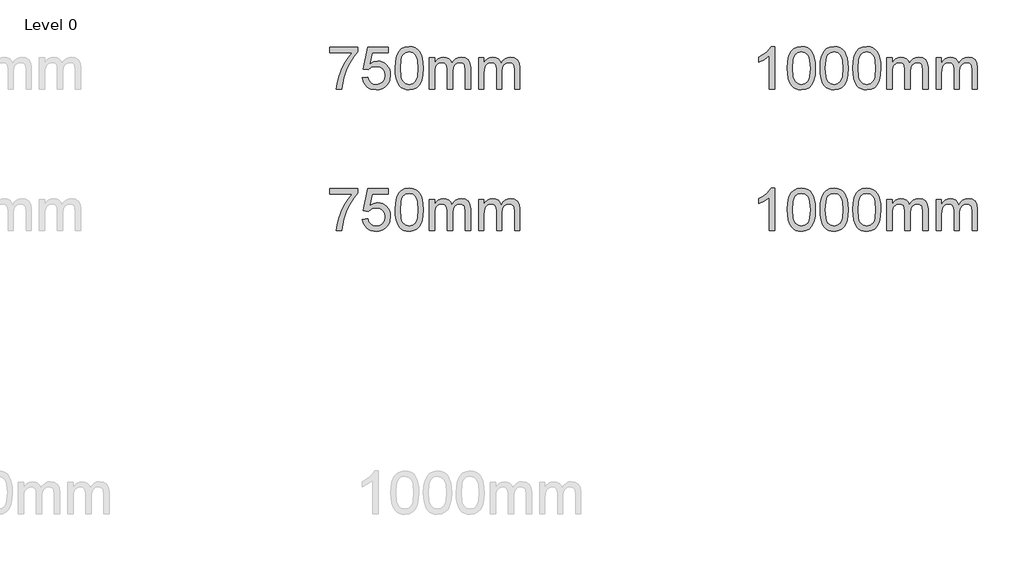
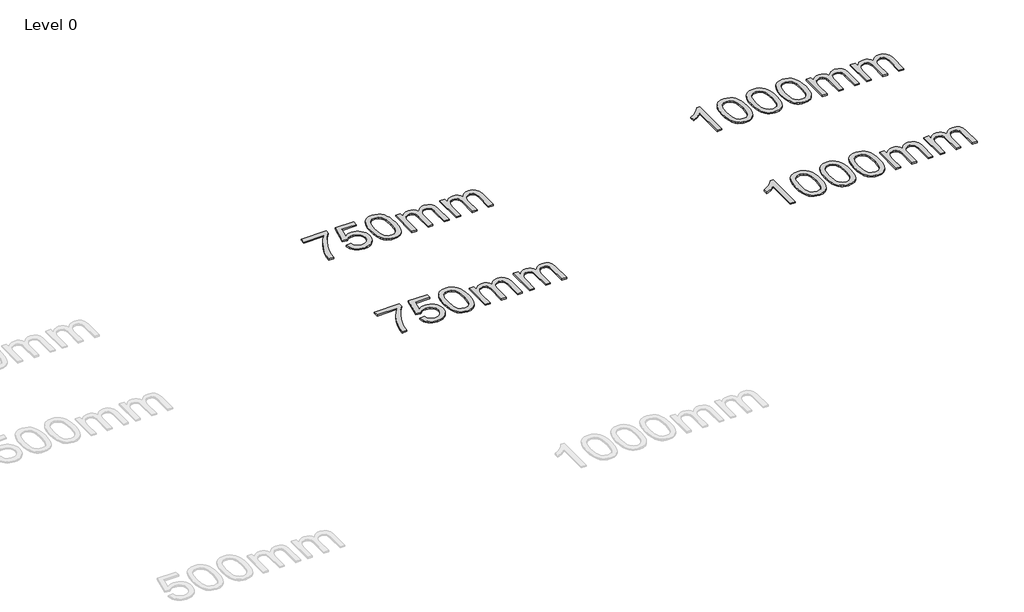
# One storey, part 25 of 25: 4 proxies.
"""IFC4 building model written with IfcOpenShell, lengths in millimetres."""

from ifc_helpers import new_model, si_unit, origin, origin_with_axes, place, context, project, spatial, polyline, outline, extrude, element, save

model = new_model("IFC4")

# Units and contexts
model_context = context("Model", 3, world=origin())
ifc_project = project(units=[si_unit("LENGTHUNIT", "METRE", prefix="MILLI")], contexts=[model_context])

# Site, building, storey
site = spatial("IfcSite", under=ifc_project)
building = spatial("IfcBuilding", under=site)
storey = spatial("IfcBuildingStorey", under=building, Name="Level 0", Elevation=0.0)

# Proxies
placement = place(None, origin())
element("IfcBuildingElementProxy", 1, Name="300mm Arial", ObjectType="300mm Arial", at=placement, inside=storey, context=model_context, shape_type="SweptSolid", body=[
    extrude(outline(polyline([(3508.6610417, 2058.0121264), (3508.6610417, 2095.6832427), (3706.4344023, 2095.6832427), (3706.4344023, 2065.2226135), (3678.2454444, 2029.547257), (3650.332398, 1984.17821), (3625.7118955, 1933.2541448), (3607.4005692, 1880.9137339), (3598.4242485, 1841.7526956), (3593.4210534, 1799.0232018), (3555.7499371, 1799.0232018), (3559.8242301, 1837.8531464), (3570.7227343, 1884.0039427), (3588.1511438, 1932.923051), (3611.8151531, 1980.0579316), (3639.443091, 2022.6678637), (3668.763286, 2058.0121264), (3508.6610417, 2058.0121264)])), origin_with_axes(), (0.0, 0.0, 1.0), 10.0),
    extrude(outline(polyline([(3739.396629, 1879.074324), (3777.0677453, 1883.7832135), (3783.9839269, 1861.1676679), (3796.0504563, 1844.971663), (3813.2121514, 1835.2319872), (3835.4138298, 1831.9854286), (3862.4163682, 1836.5011801), (3882.649878, 1850.0484346), (3895.2866245, 1871.0636935), (3899.4988733, 1897.9834585), (3895.5533389, 1923.330528), (3883.7167358, 1942.7179091), (3863.8970933, 1955.0235619), (3836.002441, 1959.1254461), (3817.7279029, 1957.4883712), (3802.9298496, 1952.5771466), (3781.7766349, 1935.5809984), (3744.1055186, 1940.289888), (3777.0677453, 2095.6832427), (3923.043321, 2095.6832427), (3923.043321, 2058.0121264), (3807.5283745, 2058.0121264), (3791.4151432, 1975.0179483), (3818.3257111, 1991.3519089), (3846.523866, 1996.7965624), (3864.8696813, 1995.1089038), (3881.7209759, 1990.0459278), (3897.07775, 1981.6076346), (3910.9400034, 1969.794024), (3922.4156224, 1955.3270645), (3930.6124931, 1938.9287246), (3935.5306155, 1920.5990042), (3937.1699896, 1900.3379033), (3931.2654836, 1862.666787), (3923.8848511, 1845.8729739), (3913.5519656, 1830.4403242), (3897.8985867, 1814.635194), (3879.6332456, 1803.3458153), (3858.7559424, 1796.572188), (3835.266677, 1794.3143123), (3798.2669453, 1800.1176508), (3782.5882745, 1807.3718238), (3768.7904005, 1817.5276662), (3757.3101829, 1830.07934), (3748.5844819, 1844.5210076), (3739.396629, 1879.074324)])), origin_with_axes(), (0.0, 0.0, 1.0), 10.0),
    extrude(outline(polyline([(3970.1322164, 1947.2796459), (3972.9005284, 1995.5181725), (3981.2054645, 2033.9894321), (3994.9642511, 2063.282036), (4014.0941148, 2083.9845953), (4038.7330115, 2096.290248), (4069.0188967, 2100.3921323), (4092.2322506, 2097.9641111), (4113.0175833, 2090.6800476), (4130.4000076, 2078.8250503), (4143.4046361, 2062.6842278), (4153.2270854, 2042.3955357), (4161.0629719, 2018.0969299), (4166.1949257, 1987.2408276), (4167.905577, 1947.2796459), (4165.1648562, 1899.3170308), (4156.9426936, 1860.9377416), (4143.2666804, 1831.6175466), (4124.1644078, 1810.8322139), (4099.4703289, 1798.4437877), (4069.0188967, 1794.3143123), (4048.2703522, 1796.107737), (4029.8762524, 1801.4880112), (4013.8365974, 1810.4551348), (4000.1513872, 1823.0091079), (3987.018, 1845.7028285), (3977.6370091, 1873.9791583), (3972.0084146, 1907.8380975), (3970.1322164, 1947.2796459)]), holes=[polyline([(4007.8033327, 1947.3532223), (4012.2179167, 1888.0966299), (4017.7361466, 1867.8286312), (4025.4616685, 1853.8008309), (4045.1801434, 1837.4392792), (4069.0188967, 1831.9854286), (4092.85765, 1837.4576733), (4112.576125, 1853.8744073), (4120.3016468, 1867.9252003), (4125.8198768, 1888.1886004), (4130.2344607, 1947.3532223), (4125.9670296, 2005.2762424), (4120.6327406, 2025.4775625), (4113.1647361, 2039.8387559), (4093.4830494, 2057.0004509), (4068.5774383, 2062.721016), (4044.9962024, 2057.6810326), (4026.0502797, 2042.5610826), (4018.0672404, 2026.9260978), (4012.3650695, 2005.8464595), (4007.8033327, 1947.3532223)])]), origin_with_axes(), (0.0, 0.0, 1.0), 10.0),
    extrude(outline(polyline([(4210.2855829, 1799.0232018), (4210.2855829, 2020.3410101), (4247.9566992, 2020.3410101), (4247.9566992, 1983.9206926), (4259.2874646, 2000.6501263), (4273.8555916, 2013.7559224), (4291.1644395, 2022.2264053), (4310.7173676, 2025.0498997), (4331.6682472, 2022.171223), (4348.4620603, 2013.5351932), (4361.0068363, 1999.7120272), (4369.2106048, 1981.2719422), (4382.9418003, 2000.4247986), (4398.6043762, 2014.1054103), (4416.1983326, 2022.3137773), (4435.7236695, 2025.0498997), (4464.0413861, 2020.49736), (4484.9830687, 2006.8397409), (4497.9233178, 1983.7091605), (4502.2367342, 1950.7377366), (4502.2367342, 1799.0232018), (4464.5656179, 1799.0232018), (4464.5656179, 1934.5509288), (4461.070739, 1966.0048394), (4456.1595143, 1974.6776575), (4448.4155983, 1981.4926714), (4438.4551933, 1985.9072554), (4426.8945016, 1987.3787834), (4406.4862479, 1983.6079929), (4389.8487847, 1972.2956216), (4378.7847337, 1952.6691171), (4375.0967167, 1923.9559274), (4375.0967167, 1799.0232018), (4337.4256004, 1799.0232018), (4337.4256004, 1938.7447836), (4335.2458996, 1960.0451511), (4328.7067971, 1975.2386775), (4317.2012877, 1984.3437569), (4300.1223661, 1987.3787834), (4285.6094214, 1985.3554324), (4272.2369109, 1979.2853795), (4261.200451, 1969.3157774), (4253.6956583, 1955.593779), (4249.391439, 1936.5558857), (4247.9566992, 1910.6385992), (4247.9566992, 1799.0232018), (4210.2855829, 1799.0232018)])), origin_with_axes(), (0.0, 0.0, 1.0), 10.0),
    extrude(outline(polyline([(4558.7434087, 1799.0232018), (4558.7434087, 2020.3410101), (4596.414525, 2020.3410101), (4596.414525, 1983.9206926), (4607.7452905, 2000.6501263), (4622.3134175, 2013.7559224), (4639.6222653, 2022.2264053), (4659.1751934, 2025.0498997), (4680.126073, 2022.171223), (4696.9198861, 2013.5351932), (4709.4646621, 1999.7120272), (4717.6684306, 1981.2719422), (4731.3996261, 2000.4247986), (4747.062202, 2014.1054103), (4764.6561585, 2022.3137773), (4784.1814953, 2025.0498997), (4812.4992119, 2020.49736), (4833.4408945, 2006.8397409), (4846.3811437, 1983.7091605), (4850.6945601, 1950.7377366), (4850.6945601, 1799.0232018), (4813.0234438, 1799.0232018), (4813.0234438, 1934.5509288), (4809.5285648, 1966.0048394), (4804.6173402, 1974.6776575), (4796.8734242, 1981.4926714), (4786.9130192, 1985.9072554), (4775.3523275, 1987.3787834), (4754.9440738, 1983.6079929), (4738.3066105, 1972.2956216), (4727.2425595, 1952.6691171), (4723.5545425, 1923.9559274), (4723.5545425, 1799.0232018), (4685.8834262, 1799.0232018), (4685.8834262, 1938.7447836), (4683.7037254, 1960.0451511), (4677.1646229, 1975.2386775), (4665.6591135, 1984.3437569), (4648.5801919, 1987.3787834), (4634.0672472, 1985.3554324), (4620.6947367, 1979.2853795), (4609.6582768, 1969.3157774), (4602.1534841, 1955.593779), (4597.8492648, 1936.5558857), (4596.414525, 1910.6385992), (4596.414525, 1799.0232018), (4558.7434087, 1799.0232018)])), origin_with_axes(), (0.0, 0.0, 1.0), 10.0),
])
element("IfcBuildingElementProxy", 2, Name="300mm Arial", ObjectType="300mm Arial", at=placement, inside=storey, context=model_context, shape_type="SweptSolid", body=[
    extrude(outline(polyline([(6649.9277278, 1799.0232018), (6612.2566115, 1799.0232018), (6612.2566115, 2033.8790675), (6576.572058, 2008.4584217), (6536.9143789, 1989.4389225), (6536.9143789, 2025.0498997), (6566.5012884, 2041.1447369), (6592.1334664, 2060.2929948), (6612.339385, 2080.6552632), (6625.6475161, 2100.3921323), (6649.9277278, 2100.3921323), (6649.9277278, 1799.0232018)])), origin_with_axes(), (0.0, 0.0, 1.0), 10.0),
    extrude(outline(polyline([(6739.396629, 1947.2796459), (6742.1649411, 1995.5181725), (6750.4698771, 2033.9894321), (6764.2286637, 2063.282036), (6783.3585275, 2083.9845953), (6807.9974241, 2096.290248), (6838.2833093, 2100.3921323), (6861.4966632, 2097.9641111), (6882.281996, 2090.6800476), (6899.6644202, 2078.8250503), (6912.6690488, 2062.6842278), (6922.491498, 2042.3955357), (6930.3273845, 2018.0969299), (6935.4593384, 1987.2408276), (6937.1699896, 1947.2796459), (6934.4292688, 1899.3170308), (6926.2071062, 1860.9377416), (6912.531093, 1831.6175466), (6893.4288204, 1810.8322139), (6868.7347415, 1798.4437877), (6838.2833093, 1794.3143123), (6817.5347648, 1796.107737), (6799.1406651, 1801.4880112), (6783.1010101, 1810.4551348), (6769.4157998, 1823.0091079), (6756.2824126, 1845.7028285), (6746.9014217, 1873.9791583), (6741.2728272, 1907.8380975), (6739.396629, 1947.2796459)]), holes=[polyline([(6777.0677453, 1947.3532223), (6781.4823293, 1888.0966299), (6787.0005592, 1867.8286312), (6794.7260811, 1853.8008309), (6814.4445561, 1837.4392792), (6838.2833093, 1831.9854286), (6862.1220626, 1837.4576733), (6881.8405376, 1853.8744073), (6889.5660595, 1867.9252003), (6895.0842894, 1888.1886004), (6899.4988733, 1947.3532223), (6895.2314422, 2005.2762424), (6889.8971533, 2025.4775625), (6882.4291488, 2039.8387559), (6862.747462, 2057.0004509), (6837.841851, 2062.721016), (6814.2606151, 2057.6810326), (6795.3146923, 2042.5610826), (6787.331653, 2026.9260978), (6781.6294821, 2005.8464595), (6777.0677453, 1947.3532223)])]), origin_with_axes(), (0.0, 0.0, 1.0), 10.0),
    extrude(outline(polyline([(6970.1322164, 1947.2796459), (6972.9005284, 1995.5181725), (6981.2054645, 2033.9894321), (6994.9642511, 2063.282036), (7014.0941148, 2083.9845953), (7038.7330115, 2096.290248), (7069.0188967, 2100.3921323), (7092.2322506, 2097.9641111), (7113.0175833, 2090.6800476), (7130.4000076, 2078.8250503), (7143.4046361, 2062.6842278), (7153.2270854, 2042.3955357), (7161.0629719, 2018.0969299), (7166.1949257, 1987.2408276), (7167.905577, 1947.2796459), (7165.1648562, 1899.3170308), (7156.9426936, 1860.9377416), (7143.2666804, 1831.6175466), (7124.1644078, 1810.8322139), (7099.4703289, 1798.4437877), (7069.0188967, 1794.3143123), (7048.2703522, 1796.107737), (7029.8762524, 1801.4880112), (7013.8365974, 1810.4551348), (7000.1513872, 1823.0091079), (6987.018, 1845.7028285), (6977.6370091, 1873.9791583), (6972.0084146, 1907.8380975), (6970.1322164, 1947.2796459)]), holes=[polyline([(7007.8033327, 1947.3532223), (7012.2179167, 1888.0966299), (7017.7361466, 1867.8286312), (7025.4616685, 1853.8008309), (7045.1801434, 1837.4392792), (7069.0188967, 1831.9854286), (7092.85765, 1837.4576733), (7112.576125, 1853.8744073), (7120.3016468, 1867.9252003), (7125.8198768, 1888.1886004), (7130.2344607, 1947.3532223), (7125.9670296, 2005.2762424), (7120.6327406, 2025.4775625), (7113.1647361, 2039.8387559), (7093.4830494, 2057.0004509), (7068.5774383, 2062.721016), (7044.9962024, 2057.6810326), (7026.0502797, 2042.5610826), (7018.0672404, 2026.9260978), (7012.3650695, 2005.8464595), (7007.8033327, 1947.3532223)])]), origin_with_axes(), (0.0, 0.0, 1.0), 10.0),
    extrude(outline(polyline([(7200.8678038, 1947.2796459), (7203.6361158, 1995.5181725), (7211.9410518, 2033.9894321), (7225.6998385, 2063.282036), (7244.8297022, 2083.9845953), (7269.4685988, 2096.290248), (7299.7544841, 2100.3921323), (7322.967838, 2097.9641111), (7343.7531707, 2090.6800476), (7361.135595, 2078.8250503), (7374.1402235, 2062.6842278), (7383.9626728, 2042.3955357), (7391.7985593, 2018.0969299), (7396.9305131, 1987.2408276), (7398.6411644, 1947.2796459), (7395.9004435, 1899.3170308), (7387.6782809, 1860.9377416), (7374.0022678, 1831.6175466), (7354.8999952, 1810.8322139), (7330.2059162, 1798.4437877), (7299.7544841, 1794.3143123), (7279.0059396, 1796.107737), (7260.6118398, 1801.4880112), (7244.5721848, 1810.4551348), (7230.8869746, 1823.0091079), (7217.7535874, 1845.7028285), (7208.3725965, 1873.9791583), (7202.744002, 1907.8380975), (7200.8678038, 1947.2796459)]), holes=[polyline([(7238.5389201, 1947.3532223), (7242.953504, 1888.0966299), (7248.471734, 1867.8286312), (7256.1972559, 1853.8008309), (7275.9157308, 1837.4392792), (7299.7544841, 1831.9854286), (7323.5932374, 1837.4576733), (7343.3117123, 1853.8744073), (7351.0372342, 1867.9252003), (7356.5554642, 1888.1886004), (7360.9700481, 1947.3532223), (7356.7026169, 2005.2762424), (7351.368328, 2025.4775625), (7343.9003235, 2039.8387559), (7324.2186368, 2057.0004509), (7299.3130257, 2062.721016), (7275.7317898, 2057.6810326), (7256.7858671, 2042.5610826), (7248.8028278, 2026.9260978), (7243.1006568, 2005.8464595), (7238.5389201, 1947.3532223)])]), origin_with_axes(), (0.0, 0.0, 1.0), 10.0),
    extrude(outline(polyline([(7441.0211702, 1799.0232018), (7441.0211702, 2020.3410101), (7478.6922866, 2020.3410101), (7478.6922866, 1983.9206926), (7490.023052, 2000.6501263), (7504.591179, 2013.7559224), (7521.9000269, 2022.2264053), (7541.4529549, 2025.0498997), (7562.4038346, 2022.171223), (7579.1976476, 2013.5351932), (7591.7424237, 1999.7120272), (7599.9461922, 1981.2719422), (7613.6773876, 2000.4247986), (7629.3399636, 2014.1054103), (7646.93392, 2022.3137773), (7666.4592569, 2025.0498997), (7694.7769735, 2020.49736), (7715.718656, 2006.8397409), (7728.6589052, 1983.7091605), (7732.9723216, 1950.7377366), (7732.9723216, 1799.0232018), (7695.3012053, 1799.0232018), (7695.3012053, 1934.5509288), (7691.8063264, 1966.0048394), (7686.8951017, 1974.6776575), (7679.1511857, 1981.4926714), (7669.1907807, 1985.9072554), (7657.630089, 1987.3787834), (7637.2218353, 1983.6079929), (7620.5843721, 1972.2956216), (7609.5203211, 1952.6691171), (7605.8323041, 1923.9559274), (7605.8323041, 1799.0232018), (7568.1611878, 1799.0232018), (7568.1611878, 1938.7447836), (7565.981487, 1960.0451511), (7559.4423845, 1975.2386775), (7547.9368751, 1984.3437569), (7530.8579535, 1987.3787834), (7516.3450088, 1985.3554324), (7502.9724982, 1979.2853795), (7491.9360384, 1969.3157774), (7484.4312457, 1955.593779), (7480.1270263, 1936.5558857), (7478.6922866, 1910.6385992), (7478.6922866, 1799.0232018), (7441.0211702, 1799.0232018)])), origin_with_axes(), (0.0, 0.0, 1.0), 10.0),
    extrude(outline(polyline([(7789.4789961, 1799.0232018), (7789.4789961, 2020.3410101), (7827.1501124, 2020.3410101), (7827.1501124, 1983.9206926), (7838.4808778, 2000.6501263), (7853.0490048, 2013.7559224), (7870.3578527, 2022.2264053), (7889.9107808, 2025.0498997), (7910.8616604, 2022.171223), (7927.6554735, 2013.5351932), (7940.2002495, 1999.7120272), (7948.404018, 1981.2719422), (7962.1352135, 2000.4247986), (7977.7977894, 2014.1054103), (7995.3917458, 2022.3137773), (8014.9170827, 2025.0498997), (8043.2347993, 2020.49736), (8064.1764819, 2006.8397409), (8077.1167311, 1983.7091605), (8081.4301474, 1950.7377366), (8081.4301474, 1799.0232018), (8043.7590311, 1799.0232018), (8043.7590311, 1934.5509288), (8040.2641522, 1966.0048394), (8035.3529276, 1974.6776575), (8027.6090116, 1981.4926714), (8017.6486065, 1985.9072554), (8006.0879148, 1987.3787834), (7985.6796612, 1983.6079929), (7969.0421979, 1972.2956216), (7957.9781469, 1952.6691171), (7954.2901299, 1923.9559274), (7954.2901299, 1799.0232018), (7916.6190136, 1799.0232018), (7916.6190136, 1938.7447836), (7914.4393128, 1960.0451511), (7907.9002103, 1975.2386775), (7896.3947009, 1984.3437569), (7879.3157793, 1987.3787834), (7864.8028346, 1985.3554324), (7851.4303241, 1979.2853795), (7840.3938642, 1969.3157774), (7832.8890715, 1955.593779), (7828.5848522, 1936.5558857), (7827.1501124, 1910.6385992), (7827.1501124, 1799.0232018), (7789.4789961, 1799.0232018)])), origin_with_axes(), (0.0, 0.0, 1.0), 10.0),
])
element("IfcBuildingElementProxy", 3, Name="300mm Arial", ObjectType="300mm Arial", at=placement, inside=storey, context=model_context, shape_type="SweptSolid", body=[
    extrude(outline(polyline([(3508.6610417, 3058.0121264), (3508.6610417, 3095.6832427), (3706.4344023, 3095.6832427), (3706.4344023, 3065.2226135), (3678.2454444, 3029.547257), (3650.332398, 2984.17821), (3625.7118955, 2933.2541448), (3607.4005692, 2880.9137339), (3598.4242485, 2841.7526956), (3593.4210534, 2799.0232018), (3555.7499371, 2799.0232018), (3559.8242301, 2837.8531464), (3570.7227343, 2884.0039427), (3588.1511438, 2932.923051), (3611.8151531, 2980.0579316), (3639.443091, 3022.6678637), (3668.763286, 3058.0121264), (3508.6610417, 3058.0121264)])), origin_with_axes(), (0.0, 0.0, 1.0), 10.0),
    extrude(outline(polyline([(3739.396629, 2879.074324), (3777.0677453, 2883.7832135), (3783.9839269, 2861.1676679), (3796.0504563, 2844.971663), (3813.2121514, 2835.2319872), (3835.4138298, 2831.9854286), (3862.4163682, 2836.5011801), (3882.649878, 2850.0484346), (3895.2866245, 2871.0636935), (3899.4988733, 2897.9834585), (3895.5533389, 2923.330528), (3883.7167358, 2942.7179091), (3863.8970933, 2955.0235619), (3836.002441, 2959.1254461), (3817.7279029, 2957.4883712), (3802.9298496, 2952.5771466), (3781.7766349, 2935.5809984), (3744.1055186, 2940.289888), (3777.0677453, 3095.6832427), (3923.043321, 3095.6832427), (3923.043321, 3058.0121264), (3807.5283745, 3058.0121264), (3791.4151432, 2975.0179483), (3818.3257111, 2991.3519089), (3846.523866, 2996.7965624), (3864.8696813, 2995.1089038), (3881.7209759, 2990.0459278), (3897.07775, 2981.6076346), (3910.9400034, 2969.794024), (3922.4156224, 2955.3270645), (3930.6124931, 2938.9287246), (3935.5306155, 2920.5990042), (3937.1699896, 2900.3379033), (3931.2654836, 2862.666787), (3923.8848511, 2845.8729739), (3913.5519656, 2830.4403242), (3897.8985867, 2814.635194), (3879.6332456, 2803.3458153), (3858.7559424, 2796.572188), (3835.266677, 2794.3143123), (3798.2669453, 2800.1176508), (3782.5882745, 2807.3718238), (3768.7904005, 2817.5276662), (3757.3101829, 2830.07934), (3748.5844819, 2844.5210076), (3739.396629, 2879.074324)])), origin_with_axes(), (0.0, 0.0, 1.0), 10.0),
    extrude(outline(polyline([(3970.1322164, 2947.2796459), (3972.9005284, 2995.5181725), (3981.2054645, 3033.9894321), (3994.9642511, 3063.282036), (4014.0941148, 3083.9845953), (4038.7330115, 3096.290248), (4069.0188967, 3100.3921323), (4092.2322506, 3097.9641111), (4113.0175833, 3090.6800476), (4130.4000076, 3078.8250503), (4143.4046361, 3062.6842278), (4153.2270854, 3042.3955357), (4161.0629719, 3018.0969299), (4166.1949257, 2987.2408276), (4167.905577, 2947.2796459), (4165.1648562, 2899.3170308), (4156.9426936, 2860.9377416), (4143.2666804, 2831.6175466), (4124.1644078, 2810.8322139), (4099.4703289, 2798.4437877), (4069.0188967, 2794.3143123), (4048.2703522, 2796.107737), (4029.8762524, 2801.4880112), (4013.8365974, 2810.4551348), (4000.1513872, 2823.0091079), (3987.018, 2845.7028285), (3977.6370091, 2873.9791583), (3972.0084146, 2907.8380975), (3970.1322164, 2947.2796459)]), holes=[polyline([(4007.8033327, 2947.3532223), (4012.2179167, 2888.0966299), (4017.7361466, 2867.8286312), (4025.4616685, 2853.8008309), (4045.1801434, 2837.4392792), (4069.0188967, 2831.9854286), (4092.85765, 2837.4576733), (4112.576125, 2853.8744073), (4120.3016468, 2867.9252003), (4125.8198768, 2888.1886004), (4130.2344607, 2947.3532223), (4125.9670296, 3005.2762424), (4120.6327406, 3025.4775625), (4113.1647361, 3039.8387559), (4093.4830494, 3057.0004509), (4068.5774383, 3062.721016), (4044.9962024, 3057.6810326), (4026.0502797, 3042.5610826), (4018.0672404, 3026.9260978), (4012.3650695, 3005.8464595), (4007.8033327, 2947.3532223)])]), origin_with_axes(), (0.0, 0.0, 1.0), 10.0),
    extrude(outline(polyline([(4210.2855829, 2799.0232018), (4210.2855829, 3020.3410101), (4247.9566992, 3020.3410101), (4247.9566992, 2983.9206926), (4259.2874646, 3000.6501263), (4273.8555916, 3013.7559224), (4291.1644395, 3022.2264053), (4310.7173676, 3025.0498997), (4331.6682472, 3022.171223), (4348.4620603, 3013.5351932), (4361.0068363, 2999.7120272), (4369.2106048, 2981.2719422), (4382.9418003, 3000.4247986), (4398.6043762, 3014.1054103), (4416.1983326, 3022.3137773), (4435.7236695, 3025.0498997), (4464.0413861, 3020.49736), (4484.9830687, 3006.8397409), (4497.9233178, 2983.7091605), (4502.2367342, 2950.7377366), (4502.2367342, 2799.0232018), (4464.5656179, 2799.0232018), (4464.5656179, 2934.5509288), (4461.070739, 2966.0048394), (4456.1595143, 2974.6776575), (4448.4155983, 2981.4926714), (4438.4551933, 2985.9072554), (4426.8945016, 2987.3787834), (4406.4862479, 2983.6079929), (4389.8487847, 2972.2956216), (4378.7847337, 2952.6691171), (4375.0967167, 2923.9559274), (4375.0967167, 2799.0232018), (4337.4256004, 2799.0232018), (4337.4256004, 2938.7447836), (4335.2458996, 2960.0451511), (4328.7067971, 2975.2386775), (4317.2012877, 2984.3437569), (4300.1223661, 2987.3787834), (4285.6094214, 2985.3554324), (4272.2369109, 2979.2853795), (4261.200451, 2969.3157774), (4253.6956583, 2955.593779), (4249.391439, 2936.5558857), (4247.9566992, 2910.6385992), (4247.9566992, 2799.0232018), (4210.2855829, 2799.0232018)])), origin_with_axes(), (0.0, 0.0, 1.0), 10.0),
    extrude(outline(polyline([(4558.7434087, 2799.0232018), (4558.7434087, 3020.3410101), (4596.414525, 3020.3410101), (4596.414525, 2983.9206926), (4607.7452905, 3000.6501263), (4622.3134175, 3013.7559224), (4639.6222653, 3022.2264053), (4659.1751934, 3025.0498997), (4680.126073, 3022.171223), (4696.9198861, 3013.5351932), (4709.4646621, 2999.7120272), (4717.6684306, 2981.2719422), (4731.3996261, 3000.4247986), (4747.062202, 3014.1054103), (4764.6561585, 3022.3137773), (4784.1814953, 3025.0498997), (4812.4992119, 3020.49736), (4833.4408945, 3006.8397409), (4846.3811437, 2983.7091605), (4850.6945601, 2950.7377366), (4850.6945601, 2799.0232018), (4813.0234438, 2799.0232018), (4813.0234438, 2934.5509288), (4809.5285648, 2966.0048394), (4804.6173402, 2974.6776575), (4796.8734242, 2981.4926714), (4786.9130192, 2985.9072554), (4775.3523275, 2987.3787834), (4754.9440738, 2983.6079929), (4738.3066105, 2972.2956216), (4727.2425595, 2952.6691171), (4723.5545425, 2923.9559274), (4723.5545425, 2799.0232018), (4685.8834262, 2799.0232018), (4685.8834262, 2938.7447836), (4683.7037254, 2960.0451511), (4677.1646229, 2975.2386775), (4665.6591135, 2984.3437569), (4648.5801919, 2987.3787834), (4634.0672472, 2985.3554324), (4620.6947367, 2979.2853795), (4609.6582768, 2969.3157774), (4602.1534841, 2955.593779), (4597.8492648, 2936.5558857), (4596.414525, 2910.6385992), (4596.414525, 2799.0232018), (4558.7434087, 2799.0232018)])), origin_with_axes(), (0.0, 0.0, 1.0), 10.0),
])
element("IfcBuildingElementProxy", 4, Name="300mm Arial", ObjectType="300mm Arial", at=placement, inside=storey, context=model_context, shape_type="SweptSolid", body=[
    extrude(outline(polyline([(6649.9277278, 2799.0232018), (6612.2566115, 2799.0232018), (6612.2566115, 3033.8790675), (6576.572058, 3008.4584217), (6536.9143789, 2989.4389225), (6536.9143789, 3025.0498997), (6566.5012884, 3041.1447369), (6592.1334664, 3060.2929948), (6612.339385, 3080.6552632), (6625.6475161, 3100.3921323), (6649.9277278, 3100.3921323), (6649.9277278, 2799.0232018)])), origin_with_axes(), (0.0, 0.0, 1.0), 10.0),
    extrude(outline(polyline([(6739.396629, 2947.2796459), (6742.1649411, 2995.5181725), (6750.4698771, 3033.9894321), (6764.2286637, 3063.282036), (6783.3585275, 3083.9845953), (6807.9974241, 3096.290248), (6838.2833093, 3100.3921323), (6861.4966632, 3097.9641111), (6882.281996, 3090.6800476), (6899.6644202, 3078.8250503), (6912.6690488, 3062.6842278), (6922.491498, 3042.3955357), (6930.3273845, 3018.0969299), (6935.4593384, 2987.2408276), (6937.1699896, 2947.2796459), (6934.4292688, 2899.3170308), (6926.2071062, 2860.9377416), (6912.531093, 2831.6175466), (6893.4288204, 2810.8322139), (6868.7347415, 2798.4437877), (6838.2833093, 2794.3143123), (6817.5347648, 2796.107737), (6799.1406651, 2801.4880112), (6783.1010101, 2810.4551348), (6769.4157998, 2823.0091079), (6756.2824126, 2845.7028285), (6746.9014217, 2873.9791583), (6741.2728272, 2907.8380975), (6739.396629, 2947.2796459)]), holes=[polyline([(6777.0677453, 2947.3532223), (6781.4823293, 2888.0966299), (6787.0005592, 2867.8286312), (6794.7260811, 2853.8008309), (6814.4445561, 2837.4392792), (6838.2833093, 2831.9854286), (6862.1220626, 2837.4576733), (6881.8405376, 2853.8744073), (6889.5660595, 2867.9252003), (6895.0842894, 2888.1886004), (6899.4988733, 2947.3532223), (6895.2314422, 3005.2762424), (6889.8971533, 3025.4775625), (6882.4291488, 3039.8387559), (6862.747462, 3057.0004509), (6837.841851, 3062.721016), (6814.2606151, 3057.6810326), (6795.3146923, 3042.5610826), (6787.331653, 3026.9260978), (6781.6294821, 3005.8464595), (6777.0677453, 2947.3532223)])]), origin_with_axes(), (0.0, 0.0, 1.0), 10.0),
    extrude(outline(polyline([(6970.1322164, 2947.2796459), (6972.9005284, 2995.5181725), (6981.2054645, 3033.9894321), (6994.9642511, 3063.282036), (7014.0941148, 3083.9845953), (7038.7330115, 3096.290248), (7069.0188967, 3100.3921323), (7092.2322506, 3097.9641111), (7113.0175833, 3090.6800476), (7130.4000076, 3078.8250503), (7143.4046361, 3062.6842278), (7153.2270854, 3042.3955357), (7161.0629719, 3018.0969299), (7166.1949257, 2987.2408276), (7167.905577, 2947.2796459), (7165.1648562, 2899.3170308), (7156.9426936, 2860.9377416), (7143.2666804, 2831.6175466), (7124.1644078, 2810.8322139), (7099.4703289, 2798.4437877), (7069.0188967, 2794.3143123), (7048.2703522, 2796.107737), (7029.8762524, 2801.4880112), (7013.8365974, 2810.4551348), (7000.1513872, 2823.0091079), (6987.018, 2845.7028285), (6977.6370091, 2873.9791583), (6972.0084146, 2907.8380975), (6970.1322164, 2947.2796459)]), holes=[polyline([(7007.8033327, 2947.3532223), (7012.2179167, 2888.0966299), (7017.7361466, 2867.8286312), (7025.4616685, 2853.8008309), (7045.1801434, 2837.4392792), (7069.0188967, 2831.9854286), (7092.85765, 2837.4576733), (7112.576125, 2853.8744073), (7120.3016468, 2867.9252003), (7125.8198768, 2888.1886004), (7130.2344607, 2947.3532223), (7125.9670296, 3005.2762424), (7120.6327406, 3025.4775625), (7113.1647361, 3039.8387559), (7093.4830494, 3057.0004509), (7068.5774383, 3062.721016), (7044.9962024, 3057.6810326), (7026.0502797, 3042.5610826), (7018.0672404, 3026.9260978), (7012.3650695, 3005.8464595), (7007.8033327, 2947.3532223)])]), origin_with_axes(), (0.0, 0.0, 1.0), 10.0),
    extrude(outline(polyline([(7200.8678038, 2947.2796459), (7203.6361158, 2995.5181725), (7211.9410518, 3033.9894321), (7225.6998385, 3063.282036), (7244.8297022, 3083.9845953), (7269.4685988, 3096.290248), (7299.7544841, 3100.3921323), (7322.967838, 3097.9641111), (7343.7531707, 3090.6800476), (7361.135595, 3078.8250503), (7374.1402235, 3062.6842278), (7383.9626728, 3042.3955357), (7391.7985593, 3018.0969299), (7396.9305131, 2987.2408276), (7398.6411644, 2947.2796459), (7395.9004435, 2899.3170308), (7387.6782809, 2860.9377416), (7374.0022678, 2831.6175466), (7354.8999952, 2810.8322139), (7330.2059162, 2798.4437877), (7299.7544841, 2794.3143123), (7279.0059396, 2796.107737), (7260.6118398, 2801.4880112), (7244.5721848, 2810.4551348), (7230.8869746, 2823.0091079), (7217.7535874, 2845.7028285), (7208.3725965, 2873.9791583), (7202.744002, 2907.8380975), (7200.8678038, 2947.2796459)]), holes=[polyline([(7238.5389201, 2947.3532223), (7242.953504, 2888.0966299), (7248.471734, 2867.8286312), (7256.1972559, 2853.8008309), (7275.9157308, 2837.4392792), (7299.7544841, 2831.9854286), (7323.5932374, 2837.4576733), (7343.3117123, 2853.8744073), (7351.0372342, 2867.9252003), (7356.5554642, 2888.1886004), (7360.9700481, 2947.3532223), (7356.7026169, 3005.2762424), (7351.368328, 3025.4775625), (7343.9003235, 3039.8387559), (7324.2186368, 3057.0004509), (7299.3130257, 3062.721016), (7275.7317898, 3057.6810326), (7256.7858671, 3042.5610826), (7248.8028278, 3026.9260978), (7243.1006568, 3005.8464595), (7238.5389201, 2947.3532223)])]), origin_with_axes(), (0.0, 0.0, 1.0), 10.0),
    extrude(outline(polyline([(7441.0211702, 2799.0232018), (7441.0211702, 3020.3410101), (7478.6922866, 3020.3410101), (7478.6922866, 2983.9206926), (7490.023052, 3000.6501263), (7504.591179, 3013.7559224), (7521.9000269, 3022.2264053), (7541.4529549, 3025.0498997), (7562.4038346, 3022.171223), (7579.1976476, 3013.5351932), (7591.7424237, 2999.7120272), (7599.9461922, 2981.2719422), (7613.6773876, 3000.4247986), (7629.3399636, 3014.1054103), (7646.93392, 3022.3137773), (7666.4592569, 3025.0498997), (7694.7769735, 3020.49736), (7715.718656, 3006.8397409), (7728.6589052, 2983.7091605), (7732.9723216, 2950.7377366), (7732.9723216, 2799.0232018), (7695.3012053, 2799.0232018), (7695.3012053, 2934.5509288), (7691.8063264, 2966.0048394), (7686.8951017, 2974.6776575), (7679.1511857, 2981.4926714), (7669.1907807, 2985.9072554), (7657.630089, 2987.3787834), (7637.2218353, 2983.6079929), (7620.5843721, 2972.2956216), (7609.5203211, 2952.6691171), (7605.8323041, 2923.9559274), (7605.8323041, 2799.0232018), (7568.1611878, 2799.0232018), (7568.1611878, 2938.7447836), (7565.981487, 2960.0451511), (7559.4423845, 2975.2386775), (7547.9368751, 2984.3437569), (7530.8579535, 2987.3787834), (7516.3450088, 2985.3554324), (7502.9724982, 2979.2853795), (7491.9360384, 2969.3157774), (7484.4312457, 2955.593779), (7480.1270263, 2936.5558857), (7478.6922866, 2910.6385992), (7478.6922866, 2799.0232018), (7441.0211702, 2799.0232018)])), origin_with_axes(), (0.0, 0.0, 1.0), 10.0),
    extrude(outline(polyline([(7789.4789961, 2799.0232018), (7789.4789961, 3020.3410101), (7827.1501124, 3020.3410101), (7827.1501124, 2983.9206926), (7838.4808778, 3000.6501263), (7853.0490048, 3013.7559224), (7870.3578527, 3022.2264053), (7889.9107808, 3025.0498997), (7910.8616604, 3022.171223), (7927.6554735, 3013.5351932), (7940.2002495, 2999.7120272), (7948.404018, 2981.2719422), (7962.1352135, 3000.4247986), (7977.7977894, 3014.1054103), (7995.3917458, 3022.3137773), (8014.9170827, 3025.0498997), (8043.2347993, 3020.49736), (8064.1764819, 3006.8397409), (8077.1167311, 2983.7091605), (8081.4301474, 2950.7377366), (8081.4301474, 2799.0232018), (8043.7590311, 2799.0232018), (8043.7590311, 2934.5509288), (8040.2641522, 2966.0048394), (8035.3529276, 2974.6776575), (8027.6090116, 2981.4926714), (8017.6486065, 2985.9072554), (8006.0879148, 2987.3787834), (7985.6796612, 2983.6079929), (7969.0421979, 2972.2956216), (7957.9781469, 2952.6691171), (7954.2901299, 2923.9559274), (7954.2901299, 2799.0232018), (7916.6190136, 2799.0232018), (7916.6190136, 2938.7447836), (7914.4393128, 2960.0451511), (7907.9002103, 2975.2386775), (7896.3947009, 2984.3437569), (7879.3157793, 2987.3787834), (7864.8028346, 2985.3554324), (7851.4303241, 2979.2853795), (7840.3938642, 2969.3157774), (7832.8890715, 2955.593779), (7828.5848522, 2936.5558857), (7827.1501124, 2910.6385992), (7827.1501124, 2799.0232018), (7789.4789961, 2799.0232018)])), origin_with_axes(), (0.0, 0.0, 1.0), 10.0),
])

save(model, "model.ifc")
